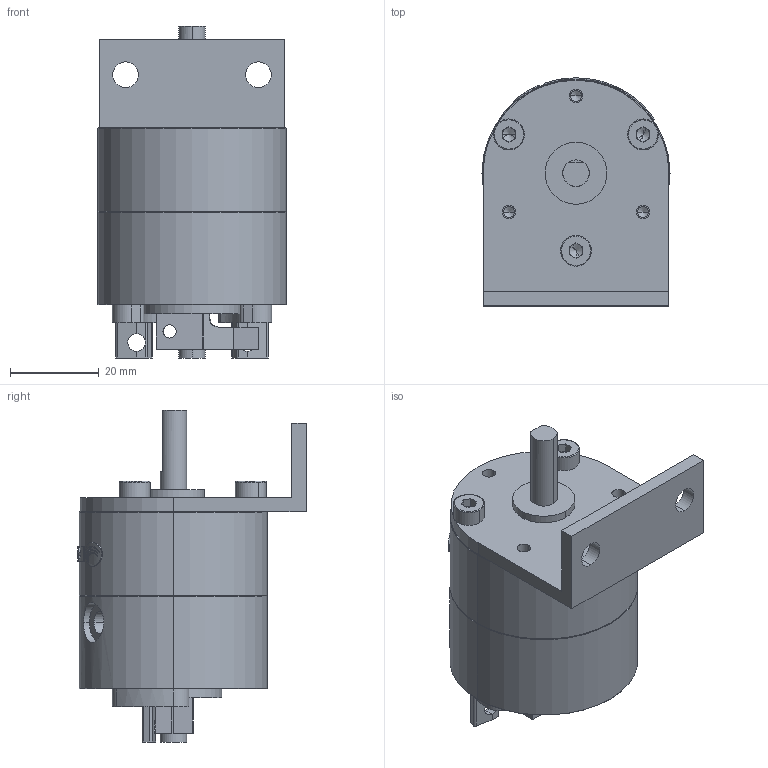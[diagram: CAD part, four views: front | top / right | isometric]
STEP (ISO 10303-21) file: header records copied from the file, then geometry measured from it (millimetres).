
FILE_DESCRIPTION (( 'STEP AP203' ), '1' );
FILE_NAME ('PROA10S-#-#-L1.STEP', '2016-02-04T07:01:10', ( 'Sam Lin' ), ( '' ), 'SwSTEP 2.0', 'SolidWorks 2013', '' );
FILE_SCHEMA (( 'CONFIG_CONTROL_DESIGN' ));
Length unit declared in the file: metre
Products named in the file (10): ISO 4762 M4 x 10; PROA10S-#-# (3); PROA10S-#-#-L1; PROA10S-#-# (4); PROA10S-#-# (1); PROA10S-#-# (5); PROA10S-#-# (6); PROA10S-#-# (2); mark-PROA10S; PROA10S-#-#-L1 (1)
Assembly tree (11 placements, depth 2):
  PROA10S-#-#-L1
    PROA10S-#-# (3)
    PROA10S-#-# (4)
    PROA10S-#-# (1)
    PROA10S-#-# (5)
    PROA10S-#-# (6)
    PROA10S-#-# (2)
    mark-PROA10S
    PROA10S-#-#-L1 (1)
    ISO 4762 M4 x 10  x3
Bounding box: 42.5 x 51.55 x 75 mm (x, y, z)
Volume: 68162 mm3; surface area: 24411.1 mm2
Topology: 17 solids, 17 shells, 455 faces, 1091 edges, 702 vertices
Faces by surface type: cylinder 195, plane 183, bspline 47, cone 30
Entity records: 17527 total; most frequent: CARTESIAN_POINT 7035, DIRECTION 1954, ORIENTED_EDGE 1910, EDGE_CURVE 955, AXIS2_PLACEMENT_3D 755, VERTEX_POINT 628, EDGE_LOOP 493, VECTOR 444
